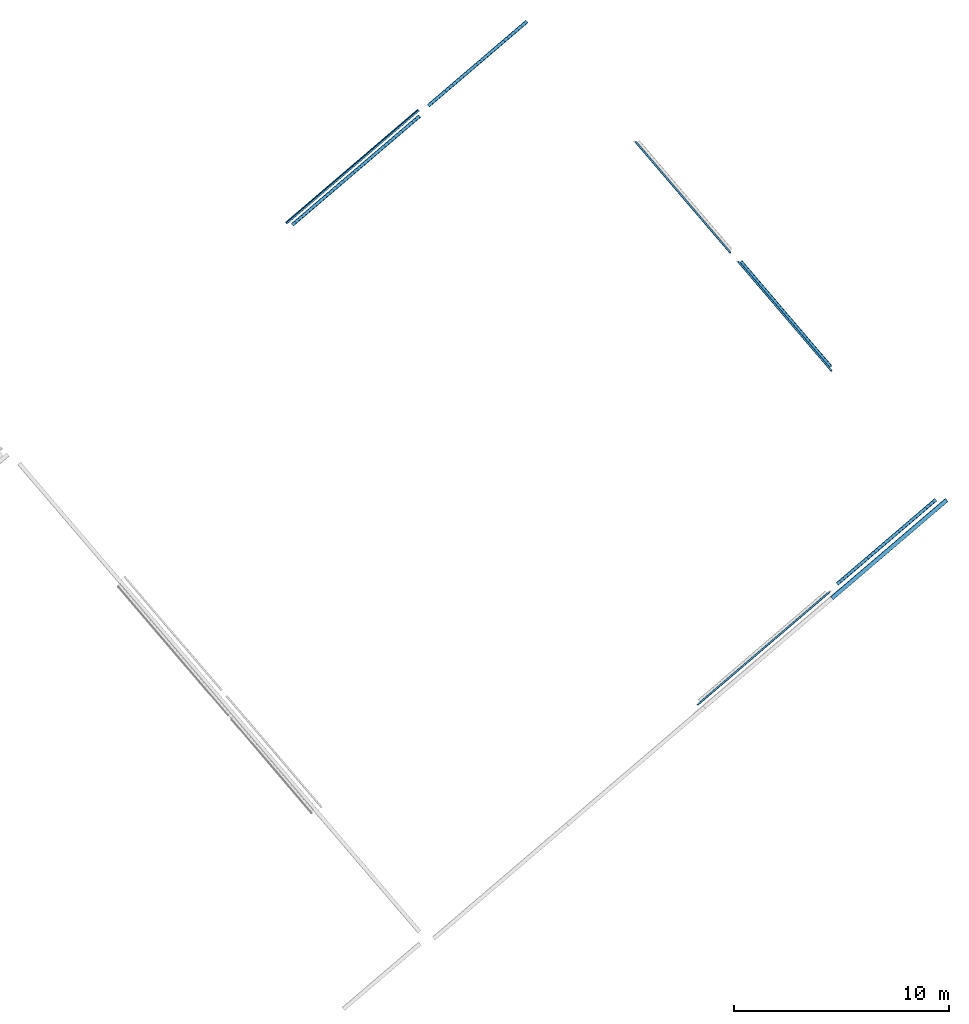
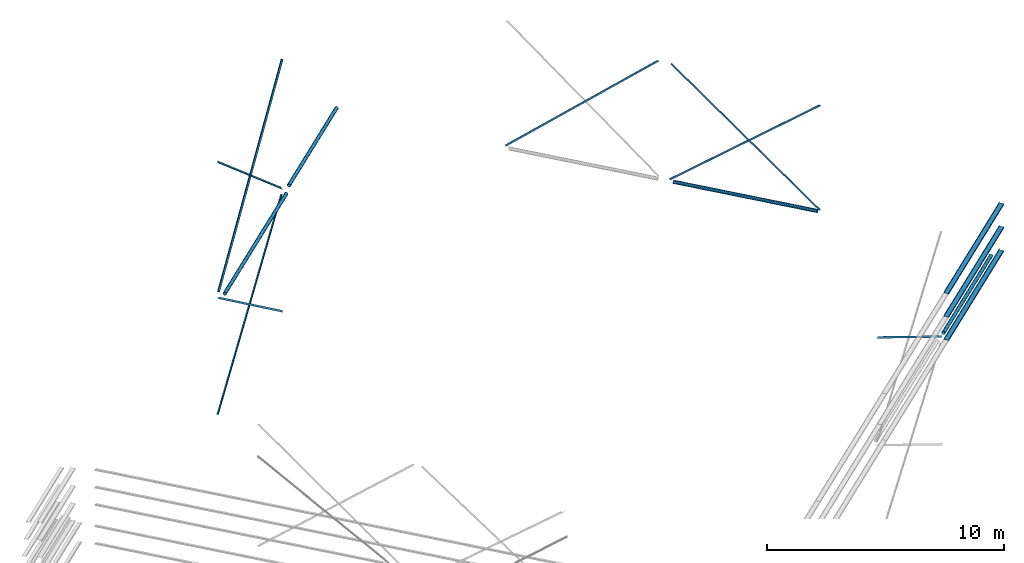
# One storey, part 5 of 6: 12 beams, 3 members.
"""IFC2X3 building model written with IfcOpenShell, lengths in millimetres."""

from ifc_helpers import new_model, entity, si_unit, converted_unit, derived_unit, direction, frame, frame_2d, origin, origin_2d_with_axis, place, context, subcontext, project, spatial, polyline, circle_curve, parameter, trimmed, segment, composite_curve, hollow_circle, outline, extrude, source, transform, mapped, material, type_object, type_shapes, element, save


model = new_model("IFC2X3")

# Units and contexts
model_context = context("Model", 3, precision=0.01, world=origin(), true_north=direction((6.123031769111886e-17, 1.0)))
body_context = subcontext(model_context, "Body", "Model", "MODEL_VIEW")
ifc_project = project(units=[si_unit("LENGTHUNIT", "METRE", prefix="MILLI"), si_unit("AREAUNIT", "SQUARE_METRE"), si_unit("VOLUMEUNIT", "CUBIC_METRE"), converted_unit("PLANEANGLEUNIT", "DEGREE", entity("IfcRatioMeasure", 0.017453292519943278), si_unit("PLANEANGLEUNIT", "RADIAN"), dimensions=[0, 0, 0, 0, 0, 0, 0]), si_unit("MASSUNIT", "GRAM", prefix="KILO"), derived_unit("MASSDENSITYUNIT", [(si_unit("MASSUNIT", "GRAM", prefix="KILO"), 1), (si_unit("LENGTHUNIT", "METRE"), -3)]), derived_unit("MOMENTOFINERTIAUNIT", [(si_unit("LENGTHUNIT", "METRE"), 4)]), si_unit("TIMEUNIT", "SECOND"), si_unit("FREQUENCYUNIT", "HERTZ"), si_unit("THERMODYNAMICTEMPERATUREUNIT", "DEGREE_CELSIUS"), derived_unit("THERMALTRANSMITTANCEUNIT", [(si_unit("MASSUNIT", "GRAM", prefix="KILO"), 1), (si_unit("THERMODYNAMICTEMPERATUREUNIT", "KELVIN"), -1), (si_unit("TIMEUNIT", "SECOND"), -3)]), derived_unit("VOLUMETRICFLOWRATEUNIT", [(si_unit("LENGTHUNIT", "METRE"), 3), (si_unit("TIMEUNIT", "SECOND"), -1)]), derived_unit("MASSFLOWRATEUNIT", [(si_unit("MASSUNIT", "GRAM", prefix="KILO"), 1), (si_unit("TIMEUNIT", "SECOND"), -1)]), derived_unit("ROTATIONALFREQUENCYUNIT", [(si_unit("TIMEUNIT", "SECOND"), -1)]), si_unit("ELECTRICCURRENTUNIT", "AMPERE"), si_unit("ELECTRICVOLTAGEUNIT", "VOLT"), si_unit("POWERUNIT", "WATT"), si_unit("FORCEUNIT", "NEWTON", prefix="KILO"), si_unit("ILLUMINANCEUNIT", "LUX"), si_unit("LUMINOUSFLUXUNIT", "LUMEN"), si_unit("LUMINOUSINTENSITYUNIT", "CANDELA"), derived_unit("USERDEFINED", [(si_unit("MASSUNIT", "GRAM", prefix="KILO"), -1), (si_unit("LENGTHUNIT", "METRE"), -2), (si_unit("TIMEUNIT", "SECOND"), 3), (si_unit("LUMINOUSFLUXUNIT", "LUMEN"), 1)]), derived_unit("SOUNDPOWERUNIT", [(si_unit("MASSUNIT", "GRAM", prefix="KILO"), 1), (si_unit("LENGTHUNIT", "METRE"), 2), (si_unit("TIMEUNIT", "SECOND"), -3)]), derived_unit("LINEARVELOCITYUNIT", [(si_unit("LENGTHUNIT", "METRE"), 1), (si_unit("TIMEUNIT", "SECOND"), -1)]), si_unit("PRESSUREUNIT", "PASCAL"), derived_unit("USERDEFINED", [(si_unit("LENGTHUNIT", "METRE"), -2), (si_unit("MASSUNIT", "GRAM", prefix="KILO"), 1), (si_unit("TIMEUNIT", "SECOND"), -2)]), derived_unit("LINEARFORCEUNIT", [(si_unit("MASSUNIT", "GRAM", prefix="KILO"), 1), (si_unit("LENGTHUNIT", "METRE"), 1), (si_unit("TIMEUNIT", "SECOND"), -2), (si_unit("LENGTHUNIT", "METRE"), -1)]), derived_unit("PLANARFORCEUNIT", [(si_unit("MASSUNIT", "GRAM", prefix="KILO"), 1), (si_unit("LENGTHUNIT", "METRE"), 1), (si_unit("TIMEUNIT", "SECOND"), -2), (si_unit("LENGTHUNIT", "METRE"), -2)])], contexts=[model_context])

# Site, building, storey
site_placement = place(None, frame((962.4174930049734, -6014.433753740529, 0.0), z_axis=(0.0, 0.0, 1.0), x_axis=(0.7601792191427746, 0.649713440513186, 0.0)))
site = spatial("IfcSite", under=ifc_project, at=site_placement, Name="Default", CompositionType="ELEMENT")
building_placement = place(site_placement, origin())
building = spatial("IfcBuilding", under=site, at=building_placement, CompositionType="ELEMENT")
storey_placement = place(building_placement, frame((0.0, 0.0, 8925.0)))
storey = spatial("IfcBuildingStorey", under=building, at=storey_placement, Name="TOP OF PLANT ROOM", CompositionType="ELEMENT", Elevation=8925.000000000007)

# Beams
ifc_material_1 = material(Name="Metal - Steel - 300 MPa")
beam_type_1 = type_object("IfcBeamType", Name="ADSK_AU_CHS-Circular Hollow Sections (AS 1163_C350):168.3x6.4CHS", PredefinedType="NOTDEFINED")
beam_1_placement = place(storey_placement, frame((170738.96020470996, 3282.5719178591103, -2577.85)))
element("IfcBeam", 1, at=beam_1_placement, inside=storey, type_object=beam_type_1, material=ifc_material_1, Name="ADSK_AU_CHS-Circular Hollow Sections (AS 1163_C350):168.3x6.4CHS", ObjectType="ADSK_AU_CHS-Circular Hollow Sections (AS 1163_C350):168.3x6.4CHS", context=body_context, shape_type="SweptSolid", body=[
    extrude(hollow_circle(Radius=84.15000000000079, WallThickness=6.4000000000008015, at=origin_2d_with_axis()), frame((299.4999999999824, 0.0, -84.15000000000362), z_axis=(1.0, 0.0, 0.0), x_axis=(0.0, 1.0, 0.0)), (0.0, 0.0, 1.0), 7800.999999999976),
])
beam_2_placement = place(storey_placement, frame((179138.96020471, 3384.0219178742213, -2577.85)))
element("IfcBeam", 2, at=beam_2_placement, inside=storey, type_object=beam_type_1, material=ifc_material_1, Name="ADSK_AU_CHS-Circular Hollow Sections (AS 1163_C350):168.3x6.4CHS", ObjectType="ADSK_AU_CHS-Circular Hollow Sections (AS 1163_C350):168.3x6.4CHS", context=body_context, shape_type="SweptSolid", body=[
    extrude(hollow_circle(Radius=84.15000000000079, WallThickness=6.4000000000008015, at=origin_2d_with_axis()), frame((307.40000000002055, 0.0, -84.1500000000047), z_axis=(1.0, 0.0, 0.0), x_axis=(0.0, 1.0, 0.0)), (0.0, 0.0, 1.0), 6047.900000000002),
])
beam_3_placement = place(storey_placement, frame((179478.96020470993, -25886.52808212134, -3340.850000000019)))
element("IfcBeam", 3, at=beam_3_placement, inside=storey, type_object=beam_type_1, material=ifc_material_1, Name="ADSK_AU_CHS-Circular Hollow Sections (AS 1163_C350):168.3x6.4CHS", ObjectType="ADSK_AU_CHS-Circular Hollow Sections (AS 1163_C350):168.3x6.4CHS", context=body_context, shape_type="SweptSolid", body=[
    extrude(hollow_circle(Radius=84.15000000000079, WallThickness=6.4000000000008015, at=origin_2d_with_axis()), frame((-25.7999999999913, 0.0, -84.15000000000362), z_axis=(1.0, 0.0, 0.0), x_axis=(0.0, 1.0, 0.0)), (0.0, 0.0, 1.0), 6039.099999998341),
])
beam_4_placement = place(storey_placement, frame((185792.0602047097, -18367.17808212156, -3085.8499999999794), z_axis=(0.0, 0.0, 1.0), x_axis=(0.0, 1.0, 0.0)))
element("IfcBeam", 4, at=beam_4_placement, inside=storey, type_object=beam_type_1, material=ifc_material_1, Name="ADSK_AU_CHS-Circular Hollow Sections (AS 1163_C350):168.3x6.4CHS", ObjectType="ADSK_AU_CHS-Circular Hollow Sections (AS 1163_C350):168.3x6.4CHS", context=body_context, shape_type="SweptSolid", body=[
    extrude(hollow_circle(Radius=84.15000000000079, WallThickness=6.4000000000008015, at=origin_2d_with_axis()), frame((344.89999999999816, 0.0, -84.15000000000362), z_axis=(1.0, 0.0, 0.0), x_axis=(0.0, 1.0, 0.0)), (0.0, 0.0, 1.0), 6451.9),
])
beam_type_2 = type_object("IfcBeamType", Name="ADSK_AU_EA-Equal Angles (AS 3679_1):90x90x10EA", PredefinedType="NOTDEFINED")
beam_5_placement = place(storey_placement, frame((170875.50235707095, 3528.371917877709, -2490.5599965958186), z_axis=(-0.6376450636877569, 0.0, 0.7703303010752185), x_axis=(0.7703303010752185, 0.0, 0.6376450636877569)))
element("IfcBeam", 5, at=beam_5_placement, inside=storey, type_object=beam_type_2, material=ifc_material_1, Name="ADSK_AU_EA-Equal Angles (AS 3679_1):90x90x10EA", ObjectType="ADSK_AU_EA-Equal Angles (AS 3679_1):90x90x10EA", context=body_context, shape_type="SweptSolid", body=[
    extrude(outline(composite_curve([segment(polyline([(29.22222222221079, -55.77777777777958), (34.22222222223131, -55.7777777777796)]), True, "CONTINUOUS"), segment(polyline([(34.22222222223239, -55.7777777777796), (34.22222222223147, 34.22222222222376)]), True, "CONTINUOUS"), segment(polyline([(34.22222222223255, 34.22222222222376), (-55.77777777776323, 34.22222222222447)]), True, "CONTINUOUS"), segment(polyline([(-55.77777777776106, 34.22222222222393), (-55.77777777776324, 29.222222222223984)]), True, "CONTINUOUS"), segment(trimmed(circle_curve(frame_2d((-50.7777777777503, 29.22222222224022), x_axis=(-1.0, 0.0)), 5.000000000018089), [parameter(0.0)], [parameter(89.99999999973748)], True, "PARAMETER"), True, "CONTINUOUS"), segment(polyline([(-50.77777777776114, 24.22222222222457), (16.22222222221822, 24.222222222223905)]), True, "CONTINUOUS"), segment(trimmed(circle_curve(frame_2d((16.222222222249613, 16.222222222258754), x_axis=(0.0, 1.0)), 7.999999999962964), [parameter(269.9999999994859)], [parameter(0.0)], True, "PARAMETER"), False, "CONTINUOUS"), segment(polyline([(24.222222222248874, 16.222222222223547), (24.222222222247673, -50.77777777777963)]), True, "CONTINUOUS"), segment(trimmed(circle_curve(frame_2d((29.22222222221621, -50.7777777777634), x_axis=(-1.0, 0.0)), 5.000000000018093), [parameter(0.0)], [parameter(89.99999999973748)], True, "PARAMETER"), True, "CONTINUOUS")], self_intersect=False)), frame((0.0, -8.522222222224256, -55.77777777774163), z_axis=(1.0, 0.0, 0.0), x_axis=(0.0, 0.0, -1.0)), (0.0, 0.0, 1.0), 10458.906443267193),
])
beam_6_placement = place(storey_placement, frame((170926.56483865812, 3528.371917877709, -2796.4159079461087), z_axis=(0.597970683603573, 0.0, 0.8015179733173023), x_axis=(0.8015179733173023, 0.0, -0.597970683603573)))
element("IfcBeam", 6, at=beam_6_placement, inside=storey, type_object=beam_type_2, material=ifc_material_1, Name="ADSK_AU_EA-Equal Angles (AS 3679_1):90x90x10EA", ObjectType="ADSK_AU_EA-Equal Angles (AS 3679_1):90x90x10EA", context=body_context, shape_type="SweptSolid", body=[
    extrude(outline(composite_curve([segment(polyline([(-55.77777777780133, -34.22222222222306), (34.2222222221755, -34.22222222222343)]), True, "CONTINUOUS"), segment(polyline([(34.2222222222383, -34.22222222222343), (34.22222222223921, 55.77777777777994)]), True, "CONTINUOUS"), segment(polyline([(34.22222222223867, 55.77777777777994), (29.222222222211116, 55.77777777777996)]), True, "CONTINUOUS"), segment(trimmed(circle_curve(frame_2d((29.222222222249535, 50.777777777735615), x_axis=(0.0, 1.0)), 5.000000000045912), [parameter(0.0)], [parameter(89.99999999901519)], True, "PARAMETER"), True, "CONTINUOUS"), segment(polyline([(24.222222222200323, 50.77777777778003), (24.22222222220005, -16.222222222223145)]), True, "CONTINUOUS"), segment(trimmed(circle_curve(frame_2d((16.222222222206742, -16.222222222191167), x_axis=(1.0, 0.0)), 8.000000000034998), [parameter(270.0000000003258)], [parameter(0.0)], True, "PARAMETER"), False, "CONTINUOUS"), segment(polyline([(16.2222222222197, -24.22222222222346), (-50.77777777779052, -24.222222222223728)]), True, "CONTINUOUS"), segment(trimmed(circle_curve(frame_2d((-50.77777777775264, -29.222222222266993), x_axis=(0.0, 1.0)), 5.000000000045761), [parameter(0.0)], [parameter(89.9999999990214)], True, "PARAMETER"), True, "CONTINUOUS"), segment(polyline([(-55.77777777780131, -29.22222222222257), (-55.77777777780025, -34.22222222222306)]), True, "CONTINUOUS")], self_intersect=False)), frame((0.0, 8.522222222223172, -55.77777777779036), z_axis=(1.0, 0.0, 0.0), x_axis=(0.0, 0.0, -1.0)), (0.0, 0.0, 1.0), 10103.00000000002),
])
beam_7_placement = place(storey_placement, frame((178998.6194935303, 3528.3719178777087, -2487.3307137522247), z_axis=(0.6378748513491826, 0.0, 0.7701400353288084), x_axis=(-0.7701400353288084, 0.0, 0.6378748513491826)))
element("IfcBeam", 7, at=beam_7_placement, inside=storey, type_object=beam_type_2, material=ifc_material_1, Name="ADSK_AU_EA-Equal Angles (AS 3679_1):90x90x10EA", ObjectType="ADSK_AU_EA-Equal Angles (AS 3679_1):90x90x10EA", context=body_context, shape_type="SweptSolid", body=[
    extrude(outline(composite_curve([segment(polyline([(-55.77777777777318, -34.22222222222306), (34.22222222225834, -34.22222222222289)]), True, "CONTINUOUS"), segment(polyline([(34.22222222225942, -34.22222222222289), (34.22222222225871, 55.77777777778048)]), True, "CONTINUOUS"), segment(polyline([(34.22222222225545, 55.77777777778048), (29.222222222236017, 55.7777777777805)]), True, "CONTINUOUS"), segment(trimmed(circle_curve(frame_2d((29.222222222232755, 50.77777777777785), x_axis=(0.0, 1.0)), 5.000000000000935), [parameter(0.0)], [parameter(90.00000000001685)], True, "PARAMETER"), True, "CONTINUOUS"), segment(polyline([(24.222222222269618, 50.77777777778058), (24.22222222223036, -16.222222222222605)]), True, "CONTINUOUS"), segment(trimmed(circle_curve(frame_2d((16.222222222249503, -16.222222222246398), x_axis=(1.0, 0.0)), 7.999999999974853), [parameter(269.9999999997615)], [parameter(0.0)], True, "PARAMETER"), False, "CONTINUOUS"), segment(polyline([(16.222222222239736, -24.22222222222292), (-50.77777777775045, -24.222222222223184)]), True, "CONTINUOUS"), segment(trimmed(circle_curve(frame_2d((-50.77777777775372, -29.222222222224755), x_axis=(0.0, 1.0)), 5.000000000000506), [parameter(0.0)], [parameter(90.00000000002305)], True, "PARAMETER"), True, "CONTINUOUS"), segment(polyline([(-55.77777777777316, -29.222222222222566), (-55.77777777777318, -34.22222222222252)]), True, "CONTINUOUS")], self_intersect=False)), frame((0.0, 8.522222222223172, -55.77777777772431), z_axis=(1.0, 0.0, 0.0), x_axis=(0.0, 0.0, -1.0)), (0.0, 0.0, 1.0), 10468.115272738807),
])
beam_8_placement = place(storey_placement, frame((178919.10301517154, 3528.371917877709, -2769.7931781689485), z_axis=(-0.5977375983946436, 0.0, 0.8016918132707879), x_axis=(-0.8016918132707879, 0.0, -0.5977375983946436)))
element("IfcBeam", 8, at=beam_8_placement, inside=storey, type_object=beam_type_2, material=ifc_material_1, Name="ADSK_AU_EA-Equal Angles (AS 3679_1):90x90x10EA", ObjectType="ADSK_AU_EA-Equal Angles (AS 3679_1):90x90x10EA", context=body_context, shape_type="SweptSolid", body=[
    extrude(outline(composite_curve([segment(polyline([(29.2222222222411, -55.77777777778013), (34.222222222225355, -55.77777777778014)]), True, "CONTINUOUS"), segment(polyline([(34.22222222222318, -55.77777777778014), (34.222222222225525, 34.22222222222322)]), True, "CONTINUOUS"), segment(polyline([(34.22222222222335, 34.22222222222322), (-55.77777777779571, 34.222222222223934)]), True, "CONTINUOUS"), segment(polyline([(-55.77777777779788, 34.222222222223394), (-55.77777777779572, 29.222222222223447)]), True, "CONTINUOUS"), segment(trimmed(circle_curve(frame_2d((-50.77777777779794, 29.222222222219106), x_axis=(-1.0, 0.0)), 4.9999999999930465), [parameter(0.0)], [parameter(90.00000000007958)], True, "PARAMETER"), True, "CONTINUOUS"), segment(polyline([(-50.77777777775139, 24.22222222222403), (16.222222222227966, 24.222222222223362)]), True, "CONTINUOUS"), segment(trimmed(circle_curve(frame_2d((16.22222222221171, 16.22222222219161), x_axis=(0.0, 1.0)), 8.00000000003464), [parameter(270.0000000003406)], [parameter(0.0)], True, "PARAMETER"), False, "CONTINUOUS"), segment(polyline([(24.2222222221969, 16.222222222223), (24.222222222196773, -50.77777777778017)]), True, "CONTINUOUS"), segment(trimmed(circle_curve(frame_2d((29.222222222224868, -50.777777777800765), x_axis=(-1.0, 0.0)), 4.999999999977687), [parameter(0.0)], [parameter(90.00000000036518)], True, "PARAMETER"), True, "CONTINUOUS")], self_intersect=False)), frame((0.0, -8.522222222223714, -55.77777777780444), z_axis=(1.0, 0.0, 0.0), x_axis=(0.0, 0.0, -1.0)), (0.0, 0.0, 1.0), 10060.60000000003),
])
beam_9_placement = place(storey_placement, frame((185679.26020470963, -18051.680599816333, 2358.350790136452), z_axis=(0.0, 0.6251751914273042, 0.7804844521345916), x_axis=(0.0, 0.7804844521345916, -0.6251751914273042)))
element("IfcBeam", 9, at=beam_9_placement, inside=storey, type_object=beam_type_2, material=ifc_material_1, Name="ADSK_AU_EA-Equal Angles (AS 3679_1):90x90x10EA", ObjectType="ADSK_AU_EA-Equal Angles (AS 3679_1):90x90x10EA", context=body_context, shape_type="SweptSolid", body=[
    extrude(outline(composite_curve([segment(polyline([(29.22222222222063, -55.777777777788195), (34.22222222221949, -55.777777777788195)]), True, "CONTINUOUS"), segment(polyline([(34.22222222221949, -55.777777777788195), (34.22222222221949, 34.222222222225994)]), True, "CONTINUOUS"), segment(polyline([(34.22222222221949, 34.222222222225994), (-55.777777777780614, 34.222222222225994)]), True, "CONTINUOUS"), segment(polyline([(-55.77777777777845, 34.222222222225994), (-55.777777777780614, 29.2222222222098)]), True, "CONTINUOUS"), segment(trimmed(circle_curve(frame_2d((-50.77777777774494, 29.222222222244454), x_axis=(-1.0, 0.0)), 5.000000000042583), [parameter(0.0)], [parameter(89.99999999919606)], True, "PARAMETER"), True, "CONTINUOUS"), segment(polyline([(-50.77777777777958, 24.222222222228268), (16.222222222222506, 24.222222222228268)]), True, "CONTINUOUS"), segment(trimmed(circle_curve(frame_2d((16.222222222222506, 16.222222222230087), x_axis=(0.0, 1.0)), 7.999999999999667), [parameter(269.9999999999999)], [parameter(0.0)], True, "PARAMETER"), False, "CONTINUOUS"), segment(polyline([(24.222222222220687, 16.222222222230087), (24.222222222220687, -50.77777777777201)]), True, "CONTINUOUS"), segment(trimmed(circle_curve(frame_2d((29.22222222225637, -50.77777777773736), x_axis=(-1.0, 0.0)), 5.000000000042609), [parameter(0.0)], [parameter(89.99999999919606)], True, "PARAMETER"), True, "CONTINUOUS")], self_intersect=False)), frame((-109.63518567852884, -8.522222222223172, -55.77777777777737), z_axis=(1.0, 0.0, 0.0), x_axis=(0.0, 0.0, -1.0)), (0.0, 0.0, 1.0), 8606.530630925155),
])
beam_10_placement = place(storey_placement, frame((185679.26020470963, -11621.27461034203, 2954.9865348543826), z_axis=(0.0, -0.6687577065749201, 0.7434804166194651), x_axis=(0.0, -0.7434804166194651, -0.6687577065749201)))
element("IfcBeam", 10, at=beam_10_placement, inside=storey, type_object=beam_type_2, material=ifc_material_1, Name="ADSK_AU_EA-Equal Angles (AS 3679_1):90x90x10EA", ObjectType="ADSK_AU_EA-Equal Angles (AS 3679_1):90x90x10EA", context=body_context, shape_type="SweptSolid", body=[
    extrude(outline(composite_curve([segment(polyline([(-55.77777777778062, -34.222222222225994), (34.22222222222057, -34.222222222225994)]), True, "CONTINUOUS"), segment(polyline([(34.22222222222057, -34.222222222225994), (34.22222222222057, 55.777777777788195)]), True, "CONTINUOUS"), segment(polyline([(34.22222222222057, 55.777777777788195), (29.22222222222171, 55.777777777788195)]), True, "CONTINUOUS"), segment(trimmed(circle_curve(frame_2d((29.22222222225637, 50.77777777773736), x_axis=(0.0, 1.0)), 5.000000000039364), [parameter(0.0)], [parameter(89.99999999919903)], True, "PARAMETER"), True, "CONTINUOUS"), segment(polyline([(24.222222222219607, 50.77777777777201), (24.222222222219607, -16.222222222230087)]), True, "CONTINUOUS"), segment(trimmed(circle_curve(frame_2d((16.22222222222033, -16.222222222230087), x_axis=(1.0, 0.0)), 7.999999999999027), [parameter(269.9999999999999)], [parameter(0.0)], True, "PARAMETER"), False, "CONTINUOUS"), segment(polyline([(16.22222222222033, -24.222222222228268), (-50.77777777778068, -24.222222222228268)]), True, "CONTINUOUS"), segment(trimmed(circle_curve(frame_2d((-50.77777777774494, -29.222222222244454), x_axis=(0.0, 1.0)), 5.00000000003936), [parameter(0.0)], [parameter(89.99999999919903)], True, "PARAMETER"), True, "CONTINUOUS"), segment(polyline([(-55.77777777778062, -29.2222222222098), (-55.77777777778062, -34.222222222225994)]), True, "CONTINUOUS")], self_intersect=False)), frame((-90.79807981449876, 8.522222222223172, -55.77777777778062), z_axis=(1.0, 0.0, 0.0), x_axis=(0.0, 0.0, -1.0)), (0.0, 0.0, 1.0), 8942.4980798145),
])
beam_11_placement = place(storey_placement, frame((185669.30526225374, -10867.711988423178, 3008.1805891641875), z_axis=(0.0, 0.658096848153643, 0.7529332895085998), x_axis=(0.0, 0.7529332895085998, -0.658096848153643)))
element("IfcBeam", 11, at=beam_11_placement, inside=storey, type_object=beam_type_2, material=ifc_material_1, Name="ADSK_AU_EA-Equal Angles (AS 3679_1):90x90x10EA", ObjectType="ADSK_AU_EA-Equal Angles (AS 3679_1):90x90x10EA", context=body_context, shape_type="SweptSolid", body=[
    extrude(outline(composite_curve([segment(polyline([(29.222222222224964, -55.777777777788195), (34.22222222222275, -55.777777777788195)]), True, "CONTINUOUS"), segment(polyline([(34.22222222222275, -55.777777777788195), (34.22222222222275, 34.222222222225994)]), True, "CONTINUOUS"), segment(polyline([(34.22222222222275, 34.222222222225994), (-55.77777777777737, 34.222222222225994)]), True, "CONTINUOUS"), segment(polyline([(-55.77777777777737, 34.222222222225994), (-55.77777777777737, 29.2222222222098)]), True, "CONTINUOUS"), segment(trimmed(circle_curve(frame_2d((-50.77777777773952, 29.222222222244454), x_axis=(-1.0, 0.0)), 5.00000000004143), [parameter(0.0)], [parameter(89.99999999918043)], True, "PARAMETER"), True, "CONTINUOUS"), segment(polyline([(-50.777777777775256, 24.222222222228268), (16.22222222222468, 24.222222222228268)]), True, "CONTINUOUS"), segment(trimmed(circle_curve(frame_2d((16.222222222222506, 16.222222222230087), x_axis=(0.0, 1.0)), 8.000000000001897), [parameter(270.00000000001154)], [parameter(0.0)], True, "PARAMETER"), False, "CONTINUOUS"), segment(polyline([(24.222222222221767, 16.222222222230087), (24.222222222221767, -50.77777777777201)]), True, "CONTINUOUS"), segment(trimmed(circle_curve(frame_2d((29.222222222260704, -50.77777777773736), x_axis=(-1.0, 0.0)), 5.000000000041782), [parameter(0.0)], [parameter(89.99999999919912)], True, "PARAMETER"), True, "CONTINUOUS")], self_intersect=False)), frame((-42.93021400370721, -8.522222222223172, -55.77777777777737), z_axis=(1.0, 0.0, 0.0), x_axis=(0.0, 0.0, -1.0)), (0.0, 0.0, 1.0), 9062.930214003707),
])
beam_12_placement = place(storey_placement, frame((170738.96020470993, -25957.928082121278, 2175.0), z_axis=(0.547785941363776, 0.0, 0.8366185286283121), x_axis=(0.8366185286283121, 0.0, -0.547785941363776)))
element("IfcBeam", 12, at=beam_12_placement, inside=storey, type_object=beam_type_2, material=ifc_material_1, Name="ADSK_AU_EA-Equal Angles (AS 3679_1):90x90x10EA", ObjectType="ADSK_AU_EA-Equal Angles (AS 3679_1):90x90x10EA", context=body_context, shape_type="SweptSolid", body=[
    extrude(outline(composite_curve([segment(polyline([(-55.77777777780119, -34.222222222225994), (34.22222222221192, -34.222222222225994)]), True, "CONTINUOUS"), segment(polyline([(34.222222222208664, -34.222222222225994), (34.222222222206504, 55.77777777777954)]), True, "CONTINUOUS"), segment(polyline([(34.222222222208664, 55.777777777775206), (29.222222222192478, 55.777777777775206)]), True, "CONTINUOUS"), segment(trimmed(circle_curve(frame_2d((29.22222222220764, 50.777777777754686), x_axis=(0.0, 1.0)), 5.000000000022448), [parameter(0.0)], [parameter(89.99999999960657)], True, "PARAMETER"), True, "CONTINUOUS"), segment(polyline([(24.222222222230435, 50.77777777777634), (24.22222222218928, -16.222222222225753)]), True, "CONTINUOUS"), segment(trimmed(circle_curve(frame_2d((16.222222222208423, -16.22222222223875), x_axis=(1.0, 0.0)), 7.999999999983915), [parameter(269.9999999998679)], [parameter(0.0)], True, "PARAMETER"), False, "CONTINUOUS"), segment(polyline([(16.22222222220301, -24.222222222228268), (-50.77777777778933, -24.222222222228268)]), True, "CONTINUOUS"), segment(trimmed(circle_curve(frame_2d((-50.77777777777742, -29.222222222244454), x_axis=(0.0, 1.0)), 5.0000000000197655), [parameter(0.0)], [parameter(89.99999999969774)], True, "PARAMETER"), True, "CONTINUOUS"), segment(polyline([(-55.77777777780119, -29.22222222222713), (-55.777777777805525, -34.222222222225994)]), True, "CONTINUOUS")], self_intersect=False)), frame((196.55915898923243, 8.522222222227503, -55.77777777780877), z_axis=(1.0, 0.0, 0.0), x_axis=(0.0, 0.0, -1.0)), (0.0, 0.0, 1.0), 9676.800000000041),
])

# Members
ifc_material_2 = material(Name="Metal - Steel - 345 MPa")
member_type_1 = type_object("IfcMemberType", Name="ADSK_AU_Light Gauge-Zeds:Z20015", PredefinedType="BRACE", material=ifc_material_2)
shared_shape_1 = source(origin(), body_context, "Body", "SweptSolid", [
    extrude(outline(composite_curve([segment(polyline([(-98.0, -67.50000000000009), (-81.49999999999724, -67.50000000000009)]), True, "CONTINUOUS"), segment(polyline([(-81.49999999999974, -67.50000000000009), (-81.49999999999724, -66.0)]), True, "CONTINUOUS"), segment(polyline([(-81.49999999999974, -66.0), (-98.0, -66.0)]), True, "CONTINUOUS"), segment(trimmed(circle_curve(frame_2d((-98.0, -64.0), x_axis=(0.0, -1.0)), 1.9999999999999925), [parameter(269.99999999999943)], [parameter(0.0)], True, "PARAMETER"), False, "CONTINUOUS"), segment(polyline([(-100.0, -64.0), (-100.0, -6.500000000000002)]), True, "CONTINUOUS"), segment(trimmed(circle_curve(frame_2d((-98.0, -6.499999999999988), x_axis=(-1.0, 0.0)), 1.999999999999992), [parameter(269.99999999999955)], [parameter(0.0)], True, "PARAMETER"), False, "CONTINUOUS"), segment(polyline([(-98.0, -4.499999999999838), (98.0, -4.499999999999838)]), True, "CONTINUOUS"), segment(trimmed(circle_curve(frame_2d((98.0, -1.0), x_axis=(0.0, -1.0)), 3.500000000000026), [parameter(0.0)], [parameter(89.99999999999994)], True, "PARAMETER"), True, "CONTINUOUS"), segment(polyline([(101.5, -1.0), (101.50000000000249, 69.0)]), True, "CONTINUOUS"), segment(trimmed(circle_curve(frame_2d((98.0, 69.0), x_axis=(1.0, 0.0)), 3.4999999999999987), [parameter(0.0)], [parameter(90.00000000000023)], True, "PARAMETER"), True, "CONTINUOUS"), segment(polyline([(98.0, 72.49999999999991), (81.50000000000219, 72.49999999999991)]), True, "CONTINUOUS"), segment(polyline([(81.4999999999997, 72.49999999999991), (81.50000000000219, 71.0)]), True, "CONTINUOUS"), segment(polyline([(81.4999999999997, 71.0), (98.0, 71.0)]), True, "CONTINUOUS"), segment(trimmed(circle_curve(frame_2d((98.0, 69.0), x_axis=(0.0, 1.0)), 2.000000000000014), [parameter(270.00000000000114)], [parameter(0.0)], True, "PARAMETER"), False, "CONTINUOUS"), segment(polyline([(100.0, 69.0), (100.0, -1.0)]), True, "CONTINUOUS"), segment(trimmed(circle_curve(frame_2d((98.0, -1.0), x_axis=(1.0, 0.0)), 1.9999999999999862), [parameter(269.99999999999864)], [parameter(0.0)], True, "PARAMETER"), False, "CONTINUOUS"), segment(polyline([(98.0, -3.0), (-98.0, -3.0)]), True, "CONTINUOUS"), segment(trimmed(circle_curve(frame_2d((-98.0, -6.499999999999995), x_axis=(0.0, 1.0)), 3.5000000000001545), [parameter(0.0)], [parameter(89.99999999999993)], True, "PARAMETER"), True, "CONTINUOUS"), segment(polyline([(-101.50000000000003, -6.500000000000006), (-101.49999999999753, -64.0)]), True, "CONTINUOUS"), segment(trimmed(circle_curve(frame_2d((-98.0, -64.0), x_axis=(-1.0, 0.0)), 3.4999999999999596), [parameter(0.0)], [parameter(90.00000000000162)], True, "PARAMETER"), True, "CONTINUOUS")], self_intersect=False)), frame((-4584.499999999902, 4.499999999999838, 0.0), z_axis=(1.0, 0.0, 0.0), x_axis=(0.0, 0.0, -1.0)), (0.0, 0.0, 1.0), 7012.599999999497),
])
type_shapes(member_type_1, [shared_shape_1])
member_placement = place(storey_placement, frame((183423.46020471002, -26224.928082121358, -3302.100000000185), z_axis=(0.0, 1.0, 0.0), x_axis=(1.0, 0.0, 0.0)))
element("IfcMember", 13, at=member_placement, inside=storey, type_object=member_type_1, material=ifc_material_2, Name="ADSK_AU_Light Gauge-Zeds:Z20015", ObjectType="ADSK_AU_Light Gauge-Zeds:Z20015", context=body_context, shape_type="MappedRepresentation", body=[
    mapped(shared_shape_1, transform((0.0, 0.0, 0.0), scale=1.0)),
])
member_type_2 = type_object("IfcMemberType", Name="ADSK_AU_Light Gauge-Zeds:Z20015", PredefinedType="BRACE", material=ifc_material_2)
shared_shape_2 = source(origin(), body_context, "Body", "SweptSolid", [
    extrude(outline(composite_curve([segment(polyline([(-98.0, -67.50000000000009), (-81.49999999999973, -67.50000000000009)]), True, "CONTINUOUS"), segment(polyline([(-81.49999999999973, -67.50000000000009), (-81.49999999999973, -66.0)]), True, "CONTINUOUS"), segment(polyline([(-81.49999999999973, -66.0), (-98.0, -66.0)]), True, "CONTINUOUS"), segment(trimmed(circle_curve(frame_2d((-98.0, -64.0), x_axis=(0.0, -1.0)), 2.0000000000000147), [parameter(270.00000000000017)], [parameter(0.0)], True, "PARAMETER"), False, "CONTINUOUS"), segment(polyline([(-100.0, -64.0), (-100.0, -6.500000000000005)]), True, "CONTINUOUS"), segment(trimmed(circle_curve(frame_2d((-98.0, -6.500000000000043), x_axis=(-1.0, 0.0)), 2.000000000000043), [parameter(270.000000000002)], [parameter(0.0)], True, "PARAMETER"), False, "CONTINUOUS"), segment(polyline([(-98.0, -4.499999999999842), (98.0, -4.499999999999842)]), True, "CONTINUOUS"), segment(trimmed(circle_curve(frame_2d((98.0, -1.0), x_axis=(0.0, -1.0)), 3.500000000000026), [parameter(0.0)], [parameter(89.99999999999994)], True, "PARAMETER"), True, "CONTINUOUS"), segment(polyline([(101.49999999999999, -1.0), (101.49999999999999, 69.0)]), True, "CONTINUOUS"), segment(trimmed(circle_curve(frame_2d((98.0, 69.0), x_axis=(1.0, 0.0)), 3.4999999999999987), [parameter(0.0)], [parameter(90.00000000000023)], True, "PARAMETER"), True, "CONTINUOUS"), segment(polyline([(98.0, 72.49999999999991), (81.49999999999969, 72.49999999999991)]), True, "CONTINUOUS"), segment(polyline([(81.49999999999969, 72.49999999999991), (81.49999999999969, 71.0)]), True, "CONTINUOUS"), segment(polyline([(81.49999999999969, 71.0), (98.0, 71.0)]), True, "CONTINUOUS"), segment(trimmed(circle_curve(frame_2d((98.0, 69.0), x_axis=(0.0, 1.0)), 2.000000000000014), [parameter(270.00000000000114)], [parameter(0.0)], True, "PARAMETER"), False, "CONTINUOUS"), segment(polyline([(100.0, 69.0), (100.0, -1.0)]), True, "CONTINUOUS"), segment(trimmed(circle_curve(frame_2d((98.0, -1.0), x_axis=(1.0, 0.0)), 1.9999999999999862), [parameter(269.99999999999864)], [parameter(0.0)], True, "PARAMETER"), False, "CONTINUOUS"), segment(polyline([(98.0, -3.0), (-98.0, -3.0)]), True, "CONTINUOUS"), segment(trimmed(circle_curve(frame_2d((-98.0, -6.499999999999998), x_axis=(0.0, 1.0)), 3.5000000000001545), [parameter(0.0)], [parameter(89.99999999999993)], True, "PARAMETER"), True, "CONTINUOUS"), segment(polyline([(-101.50000000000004, -6.50000000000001), (-101.50000000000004, -64.0)]), True, "CONTINUOUS"), segment(trimmed(circle_curve(frame_2d((-98.0, -64.0), x_axis=(-1.0, 0.0)), 3.500000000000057), [parameter(0.0)], [parameter(89.99999999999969)], True, "PARAMETER"), True, "CONTINUOUS")], self_intersect=False)), frame((-4584.499999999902, 4.499999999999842, 0.0), z_axis=(1.0, 0.0, 0.0), x_axis=(0.0, 0.0, -1.0)), (0.0, 0.0, 1.0), 7040.299999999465),
])
type_shapes(member_type_2, [shared_shape_2])
for number, where, z_axis, x_axis, name in (
    (14, (183423.4602047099, -26224.928082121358, -2102.100000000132), (0.0, 1.0, 0.0), (1.0, 0.0, 0.0), "ADSK_AU_Light Gauge-Zeds:Z20015"),
    (15, (183423.46020471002, -26224.928082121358, -902.1000000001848), (0.0, 1.0, 0.0), (1.0, 0.0, 0.0), "ADSK_AU_Light Gauge-Zeds:Z20015"),
):
    element("IfcMember", number, at=place(storey_placement, frame(where, z_axis=z_axis, x_axis=x_axis)), inside=storey, type_object=member_type_2, material=ifc_material_2, Name=name, ObjectType="ADSK_AU_Light Gauge-Zeds:Z20015", context=body_context, shape_type="MappedRepresentation", body=[
        mapped(shared_shape_2, transform((0.0, 0.0, 0.0), scale=1.0)),
    ])

save(model, "model.ifc")
